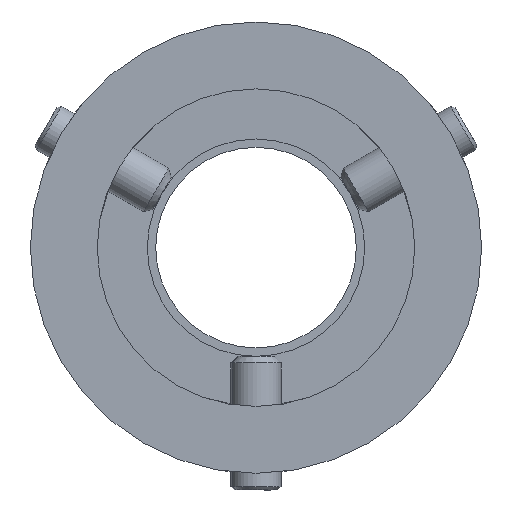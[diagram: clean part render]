
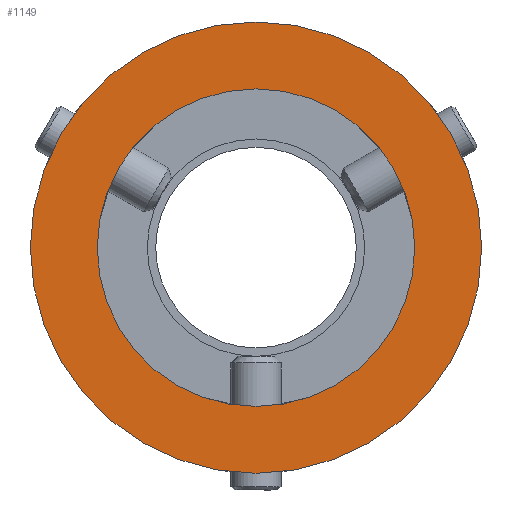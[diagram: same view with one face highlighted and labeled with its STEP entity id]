
A CAD part, front view. The second image highlights one B-rep face of the part: STEP entity #1149.
In plain terms, the highlighted planar face has unit normal (0, -1, 0).
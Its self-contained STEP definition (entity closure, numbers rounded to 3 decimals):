
#55 = AXIS2_PLACEMENT_3D ( 'NONE', #1759, #1768, #1770 ) ;
#88 = VERTEX_POINT ( 'NONE', #258 ) ;
#258 = CARTESIAN_POINT ( 'NONE',  ( 0., 0., 9.5 ) ) ;
#422 = CARTESIAN_POINT ( 'NONE',  ( 6., 0., 0. ) ) ;
#461 = EDGE_CURVE ( 'NONE', #679, #1703, #1666, .T. ) ;
#600 = DIRECTION ( 'NONE',  ( 0., 0., -1. ) ) ;
#630 = AXIS2_PLACEMENT_3D ( 'NONE', #1293, #1317, #1320 ) ;
#640 = CARTESIAN_POINT ( 'NONE',  ( 0., 0., 13.5 ) ) ;
#679 = VERTEX_POINT ( 'NONE', #2100 ) ;
#773 = PLANE ( 'NONE',  #879 ) ;
#832 = EDGE_LOOP ( 'NONE', ( #2198, #1849 ) ) ;
#879 = AXIS2_PLACEMENT_3D ( 'NONE', #422, #929, #949 ) ;
#880 = AXIS2_PLACEMENT_3D ( 'NONE', #952, #1172, #600 ) ;
#914 = AXIS2_PLACEMENT_3D ( 'NONE', #1870, #1719, #2020 ) ;
#929 = DIRECTION ( 'NONE',  ( 0., -1., 0. ) ) ;
#949 = DIRECTION ( 'NONE',  ( 0., 0., -1. ) ) ;
#952 = CARTESIAN_POINT ( 'NONE',  ( 0., 0., 0. ) ) ;
#1149 = ADVANCED_FACE ( 'NONE', ( #1560, #1520 ), #773, .T. ) ;
#1172 = DIRECTION ( 'NONE',  ( 0., -1., 0. ) ) ;
#1188 = EDGE_CURVE ( 'NONE', #1251, #88, #1549, .T. ) ;
#1251 = VERTEX_POINT ( 'NONE', #1699 ) ;
#1289 = CIRCLE ( 'NONE', #55, 13.5 ) ;
#1293 = CARTESIAN_POINT ( 'NONE',  ( 0., 0., 0. ) ) ;
#1317 = DIRECTION ( 'NONE',  ( 0., -1., 0. ) ) ;
#1320 = DIRECTION ( 'NONE',  ( 0., 0., -1. ) ) ;
#1431 = EDGE_CURVE ( 'NONE', #88, #1251, #1648, .T. ) ;
#1520 = FACE_OUTER_BOUND ( 'NONE', #832, .T. ) ;
#1549 = CIRCLE ( 'NONE', #880, 9.5 ) ;
#1560 = FACE_BOUND ( 'NONE', #2027, .T. ) ;
#1648 = CIRCLE ( 'NONE', #914, 9.5 ) ;
#1649 = ORIENTED_EDGE ( 'NONE', *, *, #1431, .F. ) ;
#1666 = CIRCLE ( 'NONE', #630, 13.5 ) ;
#1699 = CARTESIAN_POINT ( 'NONE',  ( 0., 0., -9.5 ) ) ;
#1703 = VERTEX_POINT ( 'NONE', #640 ) ;
#1719 = DIRECTION ( 'NONE',  ( 0., -1., 0. ) ) ;
#1759 = CARTESIAN_POINT ( 'NONE',  ( 0., 0., 0. ) ) ;
#1768 = DIRECTION ( 'NONE',  ( 0., -1., 0. ) ) ;
#1770 = DIRECTION ( 'NONE',  ( 0., 0., -1. ) ) ;
#1849 = ORIENTED_EDGE ( 'NONE', *, *, #2132, .T. ) ;
#1870 = CARTESIAN_POINT ( 'NONE',  ( 0., 0., 0. ) ) ;
#2020 = DIRECTION ( 'NONE',  ( 0., 0., -1. ) ) ;
#2027 = EDGE_LOOP ( 'NONE', ( #2166, #1649 ) ) ;
#2100 = CARTESIAN_POINT ( 'NONE',  ( 0., 0., -13.5 ) ) ;
#2132 = EDGE_CURVE ( 'NONE', #1703, #679, #1289, .T. ) ;
#2166 = ORIENTED_EDGE ( 'NONE', *, *, #1188, .F. ) ;
#2198 = ORIENTED_EDGE ( 'NONE', *, *, #461, .T. ) ;
